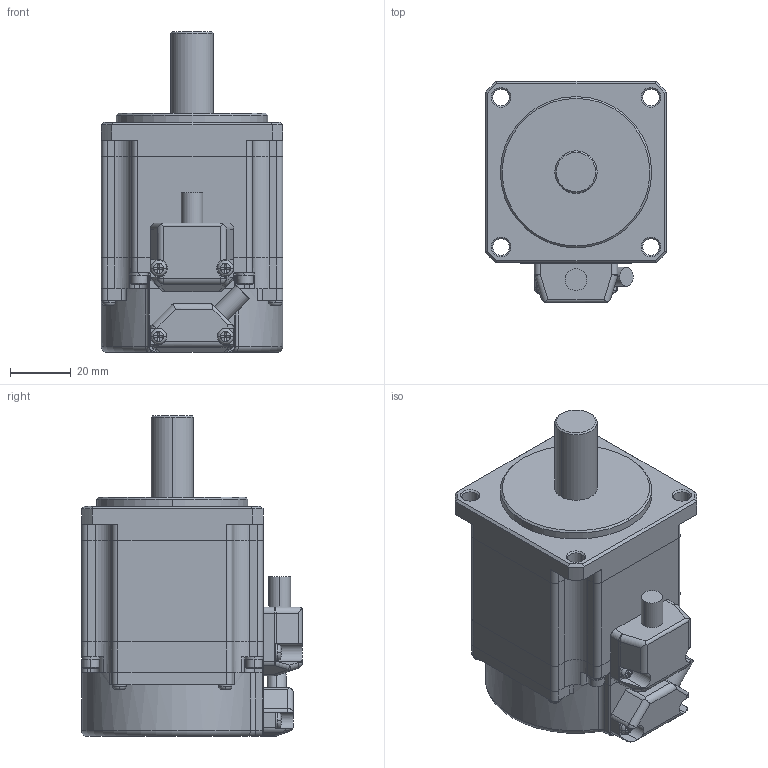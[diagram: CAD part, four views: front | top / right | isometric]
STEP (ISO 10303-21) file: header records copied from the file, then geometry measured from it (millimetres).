
FILE_DESCRIPTION(('Creo Elements/Direct Modeling STEP Export'),'2;1');
FILE_NAME('TS4607_BK無.stp','2016-12-22T16:32:34',(''),(''),'Creo Elements/Direct Modeling STEP processor for AP214 (Solid Model)','Creo Elements/Direct Modeling 17.0F 20-Aug-2012 (C) Parametric Technology GmbH','');
FILE_SCHEMA(('AUTOMOTIVE_DESIGN { 1 0 10303 214 1 1 1 1 }'));
Length unit declared in the file: millimetre
Products named in the file (1): TS4607N1000
Bounding box: 60 x 73 x 106.1 mm (x, y, z)
Volume: 260127.4 mm3; surface area: 28201 mm2
Topology: 1 solids, 1 shells, 684 faces, 1594 edges, 907 vertices
Faces by surface type: plane 321, cylinder 223, cone 80, sphere 29, torus 21, bspline 10
Entity records: 19714 total; most frequent: CARTESIAN_POINT 5001, ORIENTED_EDGE 3146, DIRECTION 3071, EDGE_CURVE 1573, AXIS2_PLACEMENT_3D 1203, VERTEX_POINT 907, EDGE_LOOP 708, FACE_OUTER_BOUND 684
